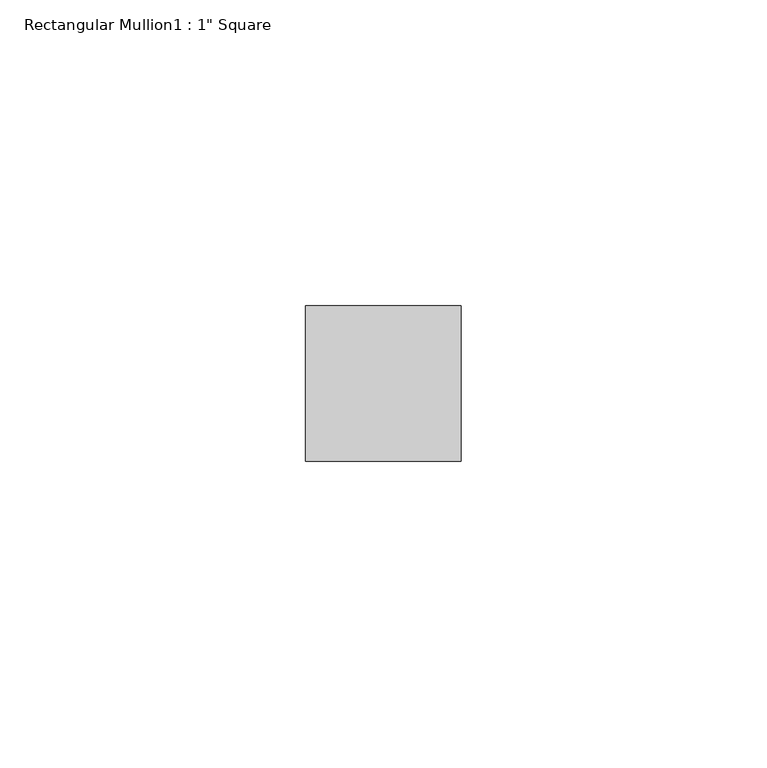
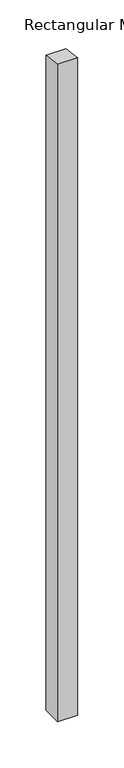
"""IFC4 building model written with IfcOpenShell, lengths in millimetres: member geometry."""

from ifc_helpers import new_model, si_unit, frame, origin, place, context, project, spatial, polyline, outline, extrude, source, transform, mapped, element, save


def member_a9d6c361(model_context):
    return source(origin(), model_context, "Body", "SweptSolid", [
        extrude(outline(polyline([(-44.45, 5.7962627), (-19.05, 2.4841126), (-19.05, -866.1779877), (-44.45, -866.1779877), (-44.45, 5.7962627)])), frame((-25.4, 0.0, 0.0), z_axis=(1.0, 0.0, 0.0), x_axis=(0.0, 1.0, 0.0)), (0.0, 0.0, 1.0), 25.4),
    ])


if __name__ == "__main__":
    model = new_model("IFC4")
    model_context = context("Model", 3, world=origin())
    ifc_project = project(units=[si_unit("LENGTHUNIT", "METRE", prefix="MILLI")], contexts=[model_context])
    site = spatial("IfcSite", under=ifc_project)
    building = spatial("IfcBuilding", under=site)
    placement = place(None, origin())
    member_shape = member_a9d6c361(model_context)
    element("IfcMember", 1, ObjectType="Rectangular Mullion1 : 1\" Square", at=placement, inside=building, context=model_context, shape_type="MappedRepresentation", body=[
        mapped(member_shape, transform((0.0, 0.0, 0.0), x_axis=(1.0, 0.0, 0.0), y_axis=(0.0, 1.0, 0.0), z_axis=(0.0, 0.0, 1.0))),
    ])
    save(model, "model.ifc")
